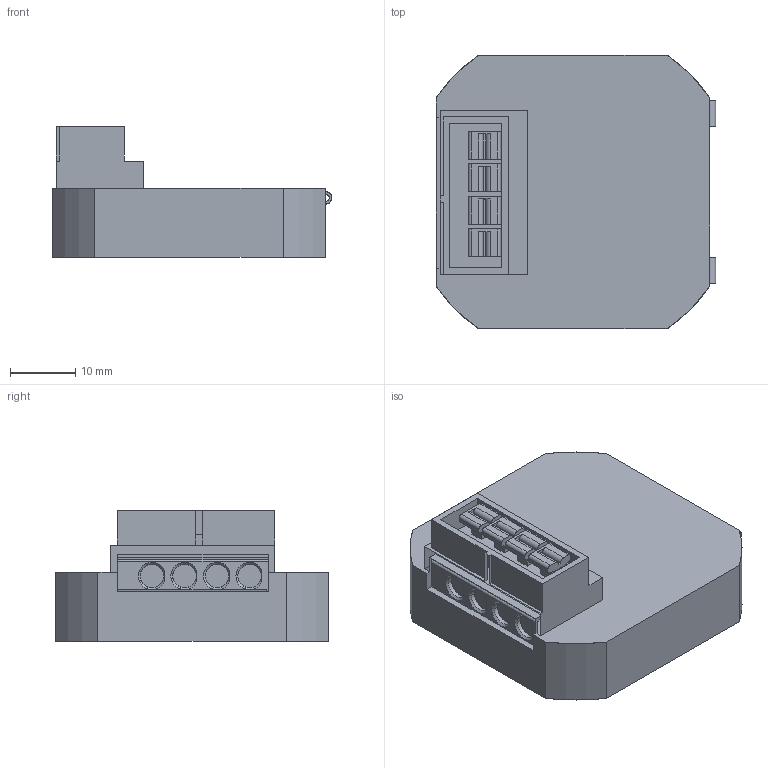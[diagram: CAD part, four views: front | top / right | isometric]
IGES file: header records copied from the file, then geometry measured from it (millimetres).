
Start section: SolidWorks IGES file using analytic representation for surfaces
Global section: file name: C:\Users\Public\HAOSENSOFTWARE\YFTSolidWorksArasPLM-V3.1.1-2023-beta\SaveAs_files\9C1-4547743-000-00.IGS; native system: SolidWorks 2023; preprocessor: SolidWorks 2023; author: P.SACHSENWEGER; date: 250618.110910; units: millimetre
Bounding box: 42.95 x 42 x 20.1 mm (x, y, z)
Surface area: 6747.9 mm2 (no closed solid volume)
Topology: 0 solids, 0 shells, 343 faces, 2296 edges, 2296 vertices
Faces by surface type: bspline 296, revolution 47
